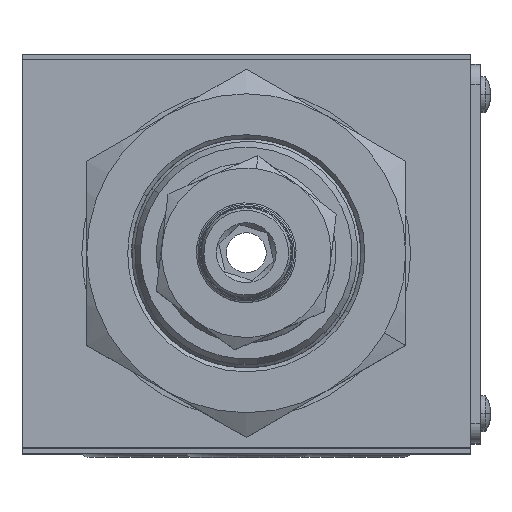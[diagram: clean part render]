
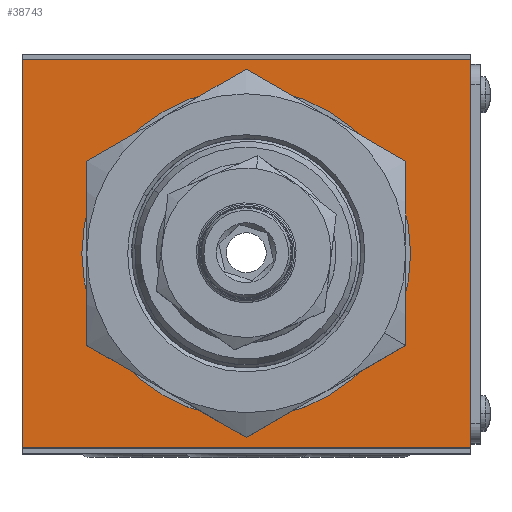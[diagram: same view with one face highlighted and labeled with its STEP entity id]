
A CAD part, top view. The second image highlights one B-rep face of the part: STEP entity #38743.
In plain terms, the highlighted planar face has unit normal (0, 0, 1).
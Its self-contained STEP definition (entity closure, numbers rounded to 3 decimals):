
#668 = AXIS2_PLACEMENT_3D ( 'NONE', #41557, #14123, #46120 ) ;
#1279 = VECTOR ( 'NONE', #43315, 1000. ) ;
#1412 = DIRECTION ( 'NONE',  ( -1., 0., 0. ) ) ;
#2013 = CARTESIAN_POINT ( 'NONE',  ( 22.5, 20., 47.5 ) ) ;
#2193 = FACE_OUTER_BOUND ( 'NONE', #35321, .T. ) ;
#4298 = CIRCLE ( 'NONE', #47572, 16.5 ) ;
#4647 = CARTESIAN_POINT ( 'NONE',  ( 22.5, -19.5, 47.5 ) ) ;
#4752 = PLANE ( 'NONE',  #668 ) ;
#5633 = VECTOR ( 'NONE', #24763, 1000. ) ;
#5804 = CARTESIAN_POINT ( 'NONE',  ( 0., 0., 47.5 ) ) ;
#8769 = LINE ( 'NONE', #24190, #43840 ) ;
#10383 = DIRECTION ( 'NONE',  ( 1., 0., 0. ) ) ;
#10849 = ORIENTED_EDGE ( 'NONE', *, *, #35693, .T. ) ;
#11739 = AXIS2_PLACEMENT_3D ( 'NONE', #5804, #37795, #10383 ) ;
#14108 = ORIENTED_EDGE ( 'NONE', *, *, #21259, .F. ) ;
#14123 = DIRECTION ( 'NONE',  ( 0., 0., 1. ) ) ;
#18605 = EDGE_CURVE ( 'NONE', #48335, #23142, #8769, .T. ) ;
#18898 = CARTESIAN_POINT ( 'NONE',  ( 0., 0., 47.5 ) ) ;
#19082 = CARTESIAN_POINT ( 'NONE',  ( -22.5, 19.5, 47.5 ) ) ;
#21259 = EDGE_CURVE ( 'NONE', #27924, #36660, #36901, .T. ) ;
#21404 = LINE ( 'NONE', #25759, #57887 ) ;
#22471 = ORIENTED_EDGE ( 'NONE', *, *, #40193, .F. ) ;
#23142 = VERTEX_POINT ( 'NONE', #26721 ) ;
#23468 = DIRECTION ( 'NONE',  ( 1., 0., 0. ) ) ;
#24190 = CARTESIAN_POINT ( 'NONE',  ( -22.5, -19.5, 47.5 ) ) ;
#24194 = CARTESIAN_POINT ( 'NONE',  ( 16.5, 0., 47.5 ) ) ;
#24340 = VERTEX_POINT ( 'NONE', #31925 ) ;
#24763 = DIRECTION ( 'NONE',  ( 0., 1., 0. ) ) ;
#25058 = FACE_BOUND ( 'NONE', #27722, .T. ) ;
#25759 = CARTESIAN_POINT ( 'NONE',  ( -22.5, 20., 47.5 ) ) ;
#26721 = CARTESIAN_POINT ( 'NONE',  ( -22.5, -19.5, 47.5 ) ) ;
#27722 = EDGE_LOOP ( 'NONE', ( #40799, #14108 ) ) ;
#27924 = VERTEX_POINT ( 'NONE', #57539 ) ;
#29915 = LINE ( 'NONE', #38739, #1279 ) ;
#31925 = CARTESIAN_POINT ( 'NONE',  ( 22.5, 19.5, 47.5 ) ) ;
#34959 = EDGE_CURVE ( 'NONE', #36660, #27924, #4298, .T. ) ;
#35321 = EDGE_LOOP ( 'NONE', ( #38806, #10849, #22471, #42685 ) ) ;
#35693 = EDGE_CURVE ( 'NONE', #48335, #24340, #54248, .T. ) ;
#36660 = VERTEX_POINT ( 'NONE', #24194 ) ;
#36901 = CIRCLE ( 'NONE', #11739, 16.5 ) ;
#37795 = DIRECTION ( 'NONE',  ( 0., 0., 1. ) ) ;
#38739 = CARTESIAN_POINT ( 'NONE',  ( -22.5, 19.5, 47.5 ) ) ;
#38743 = ADVANCED_FACE ( 'NONE', ( #25058, #2193 ), #4752, .T. ) ;
#38806 = ORIENTED_EDGE ( 'NONE', *, *, #18605, .F. ) ;
#39114 = VERTEX_POINT ( 'NONE', #19082 ) ;
#40193 = EDGE_CURVE ( 'NONE', #39114, #24340, #29915, .T. ) ;
#40799 = ORIENTED_EDGE ( 'NONE', *, *, #34959, .F. ) ;
#41557 = CARTESIAN_POINT ( 'NONE',  ( -22.5, -20., 47.5 ) ) ;
#42685 = ORIENTED_EDGE ( 'NONE', *, *, #48621, .T. ) ;
#43315 = DIRECTION ( 'NONE',  ( 1., 0., 0. ) ) ;
#43840 = VECTOR ( 'NONE', #1412, 1000. ) ;
#46120 = DIRECTION ( 'NONE',  ( 1., 0., 0. ) ) ;
#47572 = AXIS2_PLACEMENT_3D ( 'NONE', #18898, #50886, #23468 ) ;
#48335 = VERTEX_POINT ( 'NONE', #4647 ) ;
#48621 = EDGE_CURVE ( 'NONE', #39114, #23142, #21404, .T. ) ;
#50886 = DIRECTION ( 'NONE',  ( 0., 0., 1. ) ) ;
#52132 = DIRECTION ( 'NONE',  ( 0., -1., 0. ) ) ;
#54248 = LINE ( 'NONE', #2013, #5633 ) ;
#57539 = CARTESIAN_POINT ( 'NONE',  ( -16.5, 0., 47.5 ) ) ;
#57887 = VECTOR ( 'NONE', #52132, 1000. ) ;
